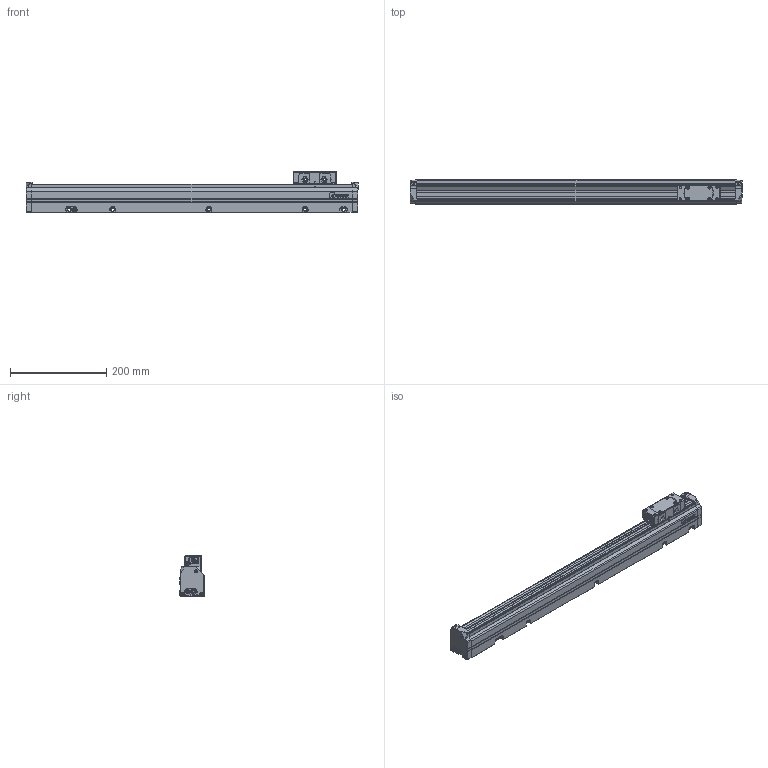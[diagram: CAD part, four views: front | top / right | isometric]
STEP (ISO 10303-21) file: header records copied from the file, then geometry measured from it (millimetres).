
FILE_DESCRIPTION(('Creo Elements/Direct Modeling STEP Export'),'2;1');
FILE_NAME('Regla L3 440-T.stp','2020-12-16T10:47:19',(''),(''),'Creo Elements/Direct Modeling STEP processor for AP214 (Solid Model)','Creo Elements/Direct Modeling 19.0G 27-Nov-2017 (C) Parametric Technology GmbH','');
FILE_SCHEMA(('AUTOMOTIVE_DESIGN { 1 0 10303 214 1 1 1 1 }'));
Length unit declared in the file: millimetre
Products named in the file (3): CABEZA_L3_T; REGLA_L3_440; REGLA_L3_440_T
Assembly tree (2 placements, depth 2):
  REGLA_L3_440_T
    REGLA_L3_440
    CABEZA_L3_T
Bounding box: 690 x 50 x 85 mm (x, y, z)
Volume: 1862672.5 mm3; surface area: 202233.8 mm2
Topology: 2 solids, 2 shells, 1417 faces, 3769 edges, 2430 vertices
Faces by surface type: plane 696, cylinder 438, cone 163, bspline 63, torus 51, extrusion 6
Entity records: 63451 total; most frequent: CARTESIAN_POINT 23375, ORIENTED_EDGE 7518, DIRECTION 6640, EDGE_CURVE 3759, VERTEX_POINT 2430, AXIS2_PLACEMENT_3D 2238, VECTOR 2164, LINE 2158
